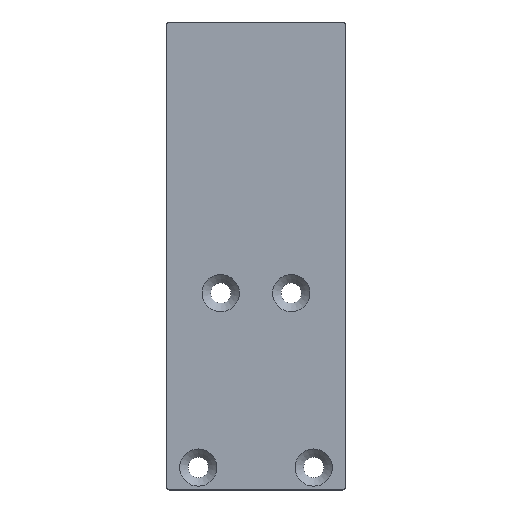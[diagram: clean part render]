
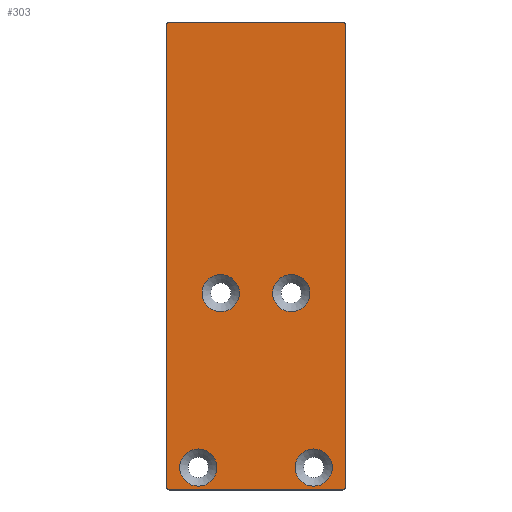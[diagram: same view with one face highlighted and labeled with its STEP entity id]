
A CAD part, top view. The second image highlights one B-rep face of the part: STEP entity #303.
In plain terms, the highlighted planar face has unit normal (0, 0, 1).
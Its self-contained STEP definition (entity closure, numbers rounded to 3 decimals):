
#29=PLANE('',#346);
#32=LINE('',#468,#48);
#36=LINE('',#480,#52);
#40=LINE('',#492,#56);
#44=LINE('',#504,#60);
#48=VECTOR('',#375,1000.);
#52=VECTOR('',#387,1000.);
#56=VECTOR('',#399,1000.);
#60=VECTOR('',#411,1000.);
#106=ORIENTED_EDGE('',*,*,#162,.T.);
#107=ORIENTED_EDGE('',*,*,#163,.T.);
#108=ORIENTED_EDGE('',*,*,#164,.T.);
#109=ORIENTED_EDGE('',*,*,#165,.T.);
#110=ORIENTED_EDGE('',*,*,#134,.T.);
#111=ORIENTED_EDGE('',*,*,#138,.T.);
#112=ORIENTED_EDGE('',*,*,#141,.T.);
#113=ORIENTED_EDGE('',*,*,#144,.T.);
#114=ORIENTED_EDGE('',*,*,#147,.T.);
#115=ORIENTED_EDGE('',*,*,#150,.T.);
#116=ORIENTED_EDGE('',*,*,#153,.T.);
#117=ORIENTED_EDGE('',*,*,#156,.T.);
#134=EDGE_CURVE('',#170,#171,#198,.T.);
#138=EDGE_CURVE('',#171,#174,#32,.T.);
#141=EDGE_CURVE('',#174,#176,#200,.T.);
#144=EDGE_CURVE('',#176,#178,#36,.T.);
#147=EDGE_CURVE('',#178,#180,#202,.T.);
#150=EDGE_CURVE('',#180,#182,#40,.T.);
#153=EDGE_CURVE('',#182,#184,#204,.T.);
#156=EDGE_CURVE('',#184,#170,#44,.T.);
#162=EDGE_CURVE('',#190,#190,#210,.T.);
#163=EDGE_CURVE('',#191,#191,#211,.T.);
#164=EDGE_CURVE('',#192,#192,#212,.T.);
#165=EDGE_CURVE('',#193,#193,#213,.T.);
#170=VERTEX_POINT('',#460);
#171=VERTEX_POINT('',#461);
#174=VERTEX_POINT('',#469);
#176=VERTEX_POINT('',#475);
#178=VERTEX_POINT('',#481);
#180=VERTEX_POINT('',#487);
#182=VERTEX_POINT('',#493);
#184=VERTEX_POINT('',#499);
#190=VERTEX_POINT('',#517);
#191=VERTEX_POINT('',#519);
#192=VERTEX_POINT('',#521);
#193=VERTEX_POINT('',#523);
#198=CIRCLE('',#326,0.5);
#200=CIRCLE('',#330,0.5);
#202=CIRCLE('',#334,0.5);
#204=CIRCLE('',#338,0.5);
#210=CIRCLE('',#347,2.9);
#211=CIRCLE('',#348,2.9);
#212=CIRCLE('',#349,2.9);
#213=CIRCLE('',#350,2.9);
#231=EDGE_LOOP('',(#106));
#232=EDGE_LOOP('',(#107));
#233=EDGE_LOOP('',(#108));
#234=EDGE_LOOP('',(#109));
#235=EDGE_LOOP('',(#110,#111,#112,#113,#114,#115,#116,#117));
#265=FACE_BOUND('',#231,.T.);
#266=FACE_BOUND('',#232,.T.);
#267=FACE_BOUND('',#233,.T.);
#268=FACE_BOUND('',#234,.T.);
#269=FACE_BOUND('',#235,.T.);
#303=ADVANCED_FACE('',(#265,#266,#267,#268,#269),#29,.T.);
#326=AXIS2_PLACEMENT_3D('',#459,#367,#368);
#330=AXIS2_PLACEMENT_3D('',#474,#380,#381);
#334=AXIS2_PLACEMENT_3D('',#486,#392,#393);
#338=AXIS2_PLACEMENT_3D('',#498,#404,#405);
#346=AXIS2_PLACEMENT_3D('',#515,#423,#424);
#347=AXIS2_PLACEMENT_3D('',#516,#425,#426);
#348=AXIS2_PLACEMENT_3D('',#518,#427,#428);
#349=AXIS2_PLACEMENT_3D('',#520,#429,#430);
#350=AXIS2_PLACEMENT_3D('',#522,#431,#432);
#367=DIRECTION('',(0.,0.,1.));
#368=DIRECTION('',(1.,0.,0.));
#375=DIRECTION('',(0.,-1.,0.));
#380=DIRECTION('',(0.,0.,1.));
#381=DIRECTION('',(1.,0.,0.));
#387=DIRECTION('',(1.,0.,0.));
#392=DIRECTION('',(0.,0.,1.));
#393=DIRECTION('',(-1.,0.,0.));
#399=DIRECTION('',(0.,1.,0.));
#404=DIRECTION('',(0.,0.,1.));
#405=DIRECTION('',(-1.,0.,0.));
#411=DIRECTION('',(-1.,0.,0.));
#423=DIRECTION('',(0.,0.,1.));
#424=DIRECTION('',(1.,0.,0.));
#425=DIRECTION('',(0.,0.,-1.));
#426=DIRECTION('',(0.,1.,0.));
#427=DIRECTION('',(0.,0.,-1.));
#428=DIRECTION('',(0.,1.,0.));
#429=DIRECTION('',(0.,0.,-1.));
#430=DIRECTION('',(0.,1.,0.));
#431=DIRECTION('',(0.,0.,-1.));
#432=DIRECTION('',(0.,1.,0.));
#459=CARTESIAN_POINT('',(-13.5,40.5,0.));
#460=CARTESIAN_POINT('',(-13.5,41.,0.));
#461=CARTESIAN_POINT('',(-14.,40.5,0.));
#468=CARTESIAN_POINT('',(-14.,40.5,0.));
#469=CARTESIAN_POINT('',(-14.,-31.5,0.));
#474=CARTESIAN_POINT('',(-13.5,-31.5,0.));
#475=CARTESIAN_POINT('',(-13.5,-32.,0.));
#480=CARTESIAN_POINT('',(-13.5,-32.,0.));
#481=CARTESIAN_POINT('',(13.5,-32.,0.));
#486=CARTESIAN_POINT('',(13.5,-31.5,0.));
#487=CARTESIAN_POINT('',(14.,-31.5,0.));
#492=CARTESIAN_POINT('',(14.,-31.5,0.));
#493=CARTESIAN_POINT('',(14.,40.5,0.));
#498=CARTESIAN_POINT('',(13.5,40.5,0.));
#499=CARTESIAN_POINT('',(13.5,41.,0.));
#504=CARTESIAN_POINT('',(13.5,41.,0.));
#515=CARTESIAN_POINT('',(-13.5,40.5,0.));
#516=CARTESIAN_POINT('',(9.,-28.5,0.));
#517=CARTESIAN_POINT('',(9.,-25.6,0.));
#518=CARTESIAN_POINT('',(-9.,-28.5,0.));
#519=CARTESIAN_POINT('',(-9.,-25.6,0.));
#520=CARTESIAN_POINT('',(5.5,-1.3,0.));
#521=CARTESIAN_POINT('',(5.5,1.6,0.));
#522=CARTESIAN_POINT('',(-5.5,-1.3,0.));
#523=CARTESIAN_POINT('',(-5.5,1.6,0.));
